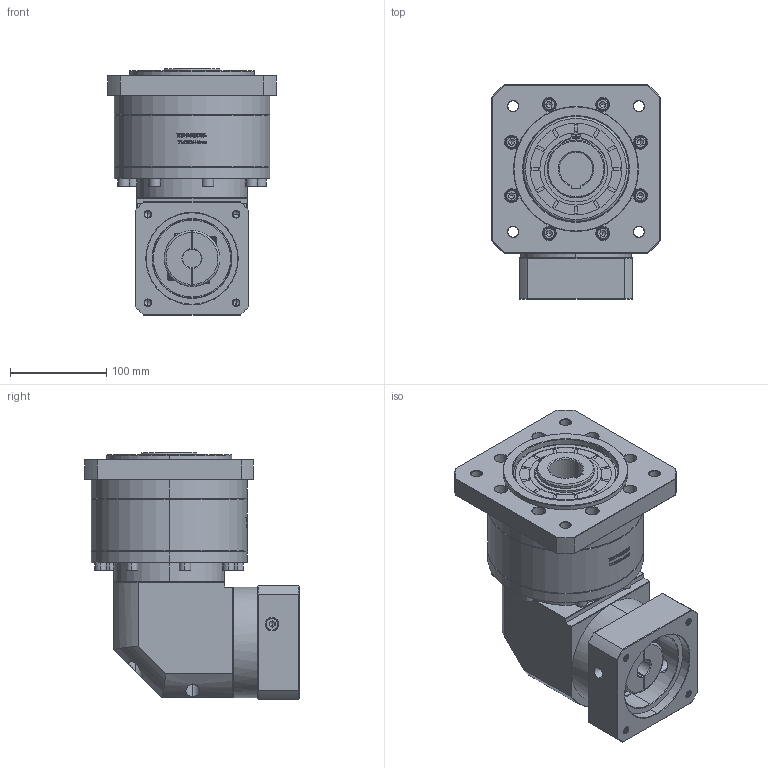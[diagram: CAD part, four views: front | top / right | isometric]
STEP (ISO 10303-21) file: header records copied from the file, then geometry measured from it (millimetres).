
FILE_DESCRIPTION (( 'STEP AP214' ), '1' );
FILE_NAME ('ZFR160A-K35-L2-19-95-130-M8.step', '2023-03-25T01:58:26', ( '' ), ( '' ), 'SwSTEP 2.0', 'SolidWorks 2016', '' );
FILE_SCHEMA (( 'AUTOMOTIVE_DESIGN' ));
Length unit declared in the file: millimetre
Products named in the file (1): ZFR160A-K35-L2-19-95-130-M8
Bounding box: 175 x 222.4 x 256.2 mm (x, y, z)
Volume: 4663927.2 mm3; surface area: 333476.6 mm2
Topology: 6 solids, 6 shells, 2723 faces, 7127 edges, 4576 vertices
Faces by surface type: plane 1366, bspline 490, cylinder 459, cone 364, torus 44
Entity records: 143687 total; most frequent: CARTESIAN_POINT 50840, ORIENTED_EDGE 14150, DIRECTION 11216, EDGE_CURVE 7075, VERTEX_POINT 4576, VECTOR 4442, LINE 4442, AXIS2_PLACEMENT_3D 3387
